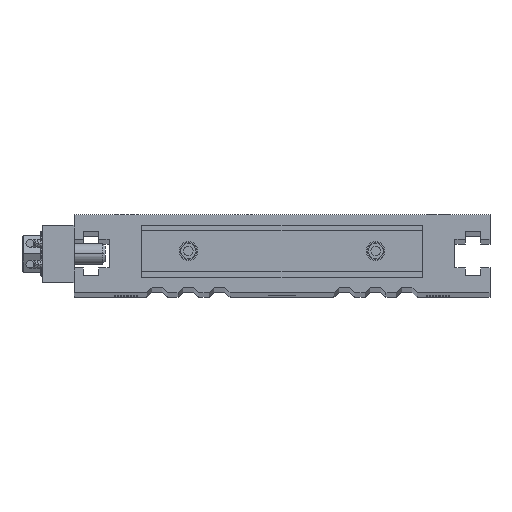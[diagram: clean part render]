
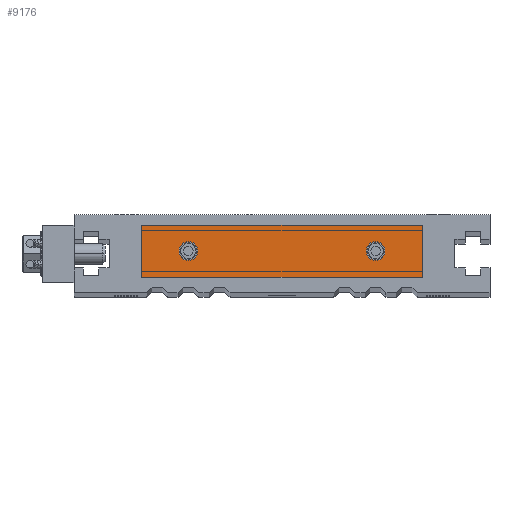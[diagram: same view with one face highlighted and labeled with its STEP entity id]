
A CAD part, top view. The second image highlights one B-rep face of the part: STEP entity #9176.
In plain terms, the highlighted planar face has unit normal (0, 0, 1).
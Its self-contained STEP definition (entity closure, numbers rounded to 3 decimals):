
#1736 = CARTESIAN_POINT ( 'NONE',  ( 16.2, 0., 4. ) ) ;
#1737 = CARTESIAN_POINT ( 'NONE',  ( 19.8, 0., 4. ) ) ;
#1740 = CARTESIAN_POINT ( 'NONE',  ( -19.8, 0., 4. ) ) ;
#1741 = CARTESIAN_POINT ( 'NONE',  ( -16.2, 0., 4. ) ) ;
#1742 = CARTESIAN_POINT ( 'NONE',  ( 27., 5., 4. ) ) ;
#1747 = CARTESIAN_POINT ( 'NONE',  ( -27., 5., 4. ) ) ;
#1750 = CARTESIAN_POINT ( 'NONE',  ( 27., -5., 4. ) ) ;
#1759 = CARTESIAN_POINT ( 'NONE',  ( -27., -5., 4. ) ) ;
#6245 = ORIENTED_EDGE ( 'NONE', *, *, #23008, .F. ) ;
#6247 = ORIENTED_EDGE ( 'NONE', *, *, #22970, .F. ) ;
#6249 = ORIENTED_EDGE ( 'NONE', *, *, #23009, .F. ) ;
#6250 = ORIENTED_EDGE ( 'NONE', *, *, #22974, .F. ) ;
#6251 = ORIENTED_EDGE ( 'NONE', *, *, #22991, .T. ) ;
#6252 = ORIENTED_EDGE ( 'NONE', *, *, #22983, .T. ) ;
#6253 = ORIENTED_EDGE ( 'NONE', *, *, #23001, .T. ) ;
#6255 = ORIENTED_EDGE ( 'NONE', *, *, #23007, .T. ) ;
#9176 = ADVANCED_FACE ( 'NONE', ( #22020, #22025, #22023 ), #15574, .T. ) ;
#13493 = EDGE_LOOP ( 'NONE', ( #6251, #6252, #6253, #6255 ) ) ;
#13502 = EDGE_LOOP ( 'NONE', ( #6249, #6250 ) ) ;
#13504 = EDGE_LOOP ( 'NONE', ( #6245, #6247 ) ) ;
#15565 = DIRECTION ( 'NONE',  ( 0., 0., 1. ) ) ;
#15572 = CARTESIAN_POINT ( 'NONE',  ( 27., -5., 4. ) ) ;
#15574 = PLANE ( 'NONE',  #19365 ) ;
#15576 = DIRECTION ( 'NONE',  ( 1., 0., 0. ) ) ;
#16377 = VERTEX_POINT ( 'NONE', #1736 ) ;
#16378 = VERTEX_POINT ( 'NONE', #1737 ) ;
#16381 = VERTEX_POINT ( 'NONE', #1740 ) ;
#16382 = VERTEX_POINT ( 'NONE', #1741 ) ;
#16383 = VERTEX_POINT ( 'NONE', #1742 ) ;
#16388 = VERTEX_POINT ( 'NONE', #1747 ) ;
#16391 = VERTEX_POINT ( 'NONE', #1750 ) ;
#16400 = VERTEX_POINT ( 'NONE', #1759 ) ;
#17795 = CARTESIAN_POINT ( 'NONE',  ( 18., 0., 4. ) ) ;
#17797 = DIRECTION ( 'NONE',  ( 0., 0., 1. ) ) ;
#17799 = DIRECTION ( 'NONE',  ( -1., 0., 0. ) ) ;
#17821 = CARTESIAN_POINT ( 'NONE',  ( -18., 0., 4. ) ) ;
#17822 = DIRECTION ( 'NONE',  ( 0., 0., 1. ) ) ;
#17824 = DIRECTION ( 'NONE',  ( 1., 0., 0. ) ) ;
#17847 = CARTESIAN_POINT ( 'NONE',  ( -27., 5., 4. ) ) ;
#17860 = DIRECTION ( 'NONE',  ( -1., 0., 0. ) ) ;
#17890 = CARTESIAN_POINT ( 'NONE',  ( -27., 5., 4. ) ) ;
#17896 = CARTESIAN_POINT ( 'NONE',  ( 27., 5., 4. ) ) ;
#17898 = DIRECTION ( 'NONE',  ( 0., 1., 0. ) ) ;
#17940 = DIRECTION ( 'NONE',  ( 0., -1., 0. ) ) ;
#17967 = CARTESIAN_POINT ( 'NONE',  ( -27., -5., 4. ) ) ;
#17969 = DIRECTION ( 'NONE',  ( 1., 0., 0. ) ) ;
#17975 = CARTESIAN_POINT ( 'NONE',  ( 18., 0., 4. ) ) ;
#17977 = DIRECTION ( 'NONE',  ( 0., 0., 1. ) ) ;
#17978 = DIRECTION ( 'NONE',  ( -1., 0., 0. ) ) ;
#17982 = CARTESIAN_POINT ( 'NONE',  ( -18., 0., 4. ) ) ;
#17984 = DIRECTION ( 'NONE',  ( 0., 0., 1. ) ) ;
#17986 = DIRECTION ( 'NONE',  ( 1., 0., 0. ) ) ;
#19365 = AXIS2_PLACEMENT_3D ( 'NONE', #15572, #15565, #15576 ) ;
#19623 = AXIS2_PLACEMENT_3D ( 'NONE', #17795, #17797, #17799 ) ;
#19625 = AXIS2_PLACEMENT_3D ( 'NONE', #17821, #17822, #17824 ) ;
#19626 = AXIS2_PLACEMENT_3D ( 'NONE', #17975, #17977, #17978 ) ;
#19627 = AXIS2_PLACEMENT_3D ( 'NONE', #17982, #17984, #17986 ) ;
#20613 = CIRCLE ( 'NONE', #19623, 1.8 ) ;
#20619 = CIRCLE ( 'NONE', #19625, 1.8 ) ;
#20635 = LINE ( 'NONE', #17847, #20640 ) ;
#20640 = VECTOR ( 'NONE', #17860, 1000. ) ;
#20653 = LINE ( 'NONE', #17896, #20656 ) ;
#20656 = VECTOR ( 'NONE', #17898, 1000. ) ;
#20659 = LINE ( 'NONE', #17890, #20676 ) ;
#20676 = VECTOR ( 'NONE', #17940, 1000. ) ;
#20685 = LINE ( 'NONE', #17967, #20688 ) ;
#20687 = CIRCLE ( 'NONE', #19626, 1.8 ) ;
#20688 = VECTOR ( 'NONE', #17969, 1000. ) ;
#20689 = CIRCLE ( 'NONE', #19627, 1.8 ) ;
#22020 = FACE_BOUND ( 'NONE', #13504, .T. ) ;
#22023 = FACE_OUTER_BOUND ( 'NONE', #13493, .T. ) ;
#22025 = FACE_BOUND ( 'NONE', #13502, .T. ) ;
#22970 = EDGE_CURVE ( 'NONE', #16377, #16378, #20613, .T. ) ;
#22974 = EDGE_CURVE ( 'NONE', #16381, #16382, #20619, .T. ) ;
#22983 = EDGE_CURVE ( 'NONE', #16383, #16388, #20635, .T. ) ;
#22991 = EDGE_CURVE ( 'NONE', #16391, #16383, #20653, .T. ) ;
#23001 = EDGE_CURVE ( 'NONE', #16388, #16400, #20659, .T. ) ;
#23007 = EDGE_CURVE ( 'NONE', #16400, #16391, #20685, .T. ) ;
#23008 = EDGE_CURVE ( 'NONE', #16378, #16377, #20687, .T. ) ;
#23009 = EDGE_CURVE ( 'NONE', #16382, #16381, #20689, .T. ) ;
